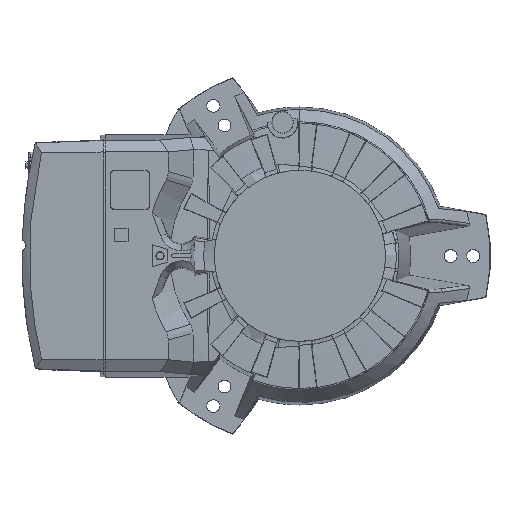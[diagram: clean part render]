
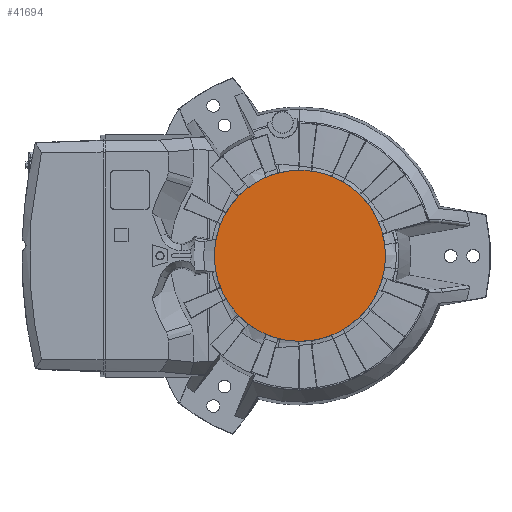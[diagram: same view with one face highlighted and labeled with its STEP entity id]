
A CAD part, top view. The second image highlights one B-rep face of the part: STEP entity #41694.
In plain terms, the highlighted planar face has unit normal (0, 0, 1).
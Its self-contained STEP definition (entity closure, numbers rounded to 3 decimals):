
#96 = CARTESIAN_POINT ( 'NONE',  ( 123.5, 0., 230. ) ) ;
#3240 = EDGE_CURVE ( 'NONE', #15499, #27252, #20673, .T. ) ;
#3378 = ORIENTED_EDGE ( 'NONE', *, *, #3240, .F. ) ;
#3547 = FACE_OUTER_BOUND ( 'NONE', #43938, .T. ) ;
#5740 = AXIS2_PLACEMENT_3D ( 'NONE', #10818, #35198, #14418 ) ;
#7304 = EDGE_CURVE ( 'NONE', #27252, #15499, #41166, .T. ) ;
#10818 = CARTESIAN_POINT ( 'NONE',  ( 0., 0., 230. ) ) ;
#14418 = DIRECTION ( 'NONE',  ( 0., 1., 0. ) ) ;
#15499 = VERTEX_POINT ( 'NONE', #96 ) ;
#20673 = B_SPLINE_CURVE_WITH_KNOTS ( 'NONE', 3,
 ( #43576, #42983, #43080, #43032, #42860, #42949, #42900, #42848, #42811, #42756, #42660, #42560, #42712, #42700, #42616, #42572, #42527, #42515, #42477, #42423, #42434, #42384, #42371, #42328, #42275, #42227, #42238, #42190, #42132, #42146, #42100, #42023, #42089, #42055 ),
 .UNSPECIFIED., .F., .F.,
 ( 4, 2, 2, 2, 2, 2, 2, 2, 2, 2, 2, 2, 2, 2, 2, 2, 4 ),
 ( 0., 0.063, 0.125, 0.187, 0.25, 0.312, 0.375, 0.438, 0.5, 0.562, 0.625, 0.687, 0.75, 0.813, 0.875, 0.938, 1. ),
 .UNSPECIFIED. ) ;
#27252 = VERTEX_POINT ( 'NONE', #44832 ) ;
#31807 = CARTESIAN_POINT ( 'NONE',  ( 123.5, 8.083, 230. ) ) ;
#31859 = CARTESIAN_POINT ( 'NONE',  ( 123.5, 0., 230. ) ) ;
#31995 = CARTESIAN_POINT ( 'NONE',  ( 119.55, 32.021, 230. ) ) ;
#32049 = CARTESIAN_POINT ( 'NONE',  ( 117.192, 39.794, 230. ) ) ;
#32101 = CARTESIAN_POINT ( 'NONE',  ( 98.196, 75.334, 230. ) ) ;
#32144 = CARTESIAN_POINT ( 'NONE',  ( 107.177, 61.892, 230. ) ) ;
#32155 = CARTESIAN_POINT ( 'NONE',  ( 122.704, 16.166, 230. ) ) ;
#32242 = CARTESIAN_POINT ( 'NONE',  ( 111.006, 54.729, 230. ) ) ;
#32287 = CARTESIAN_POINT ( 'NONE',  ( 81.612, 93.043, 230. ) ) ;
#32296 = CARTESIAN_POINT ( 'NONE',  ( 93.043, 81.612, 230. ) ) ;
#32335 = CARTESIAN_POINT ( 'NONE',  ( 54.729, 111.006, 230. ) ) ;
#32385 = CARTESIAN_POINT ( 'NONE',  ( 75.334, 98.196, 230. ) ) ;
#32480 = CARTESIAN_POINT ( 'NONE',  ( 16.166, 122.704, 230. ) ) ;
#32537 = CARTESIAN_POINT ( 'NONE',  ( 61.892, 107.177, 230. ) ) ;
#32578 = CARTESIAN_POINT ( 'NONE',  ( 39.794, 117.192, 230. ) ) ;
#32590 = CARTESIAN_POINT ( 'NONE',  ( 8.083, 123.5, 230. ) ) ;
#32627 = CARTESIAN_POINT ( 'NONE',  ( 32.021, 119.55, 230. ) ) ;
#32676 = CARTESIAN_POINT ( 'NONE',  ( -16.166, 122.704, 230. ) ) ;
#32720 = CARTESIAN_POINT ( 'NONE',  ( -8.083, 123.5, 230. ) ) ;
#32729 = CARTESIAN_POINT ( 'NONE',  ( -32.021, 119.55, 230. ) ) ;
#32762 = CARTESIAN_POINT ( 'NONE',  ( -39.794, 117.192, 230. ) ) ;
#32847 = CARTESIAN_POINT ( 'NONE',  ( -54.729, 111.006, 230. ) ) ;
#32931 = CARTESIAN_POINT ( 'NONE',  ( -61.892, 107.177, 230. ) ) ;
#32972 = CARTESIAN_POINT ( 'NONE',  ( -75.334, 98.196, 230. ) ) ;
#33016 = CARTESIAN_POINT ( 'NONE',  ( -81.612, 93.043, 230. ) ) ;
#33024 = CARTESIAN_POINT ( 'NONE',  ( -93.043, 81.612, 230. ) ) ;
#33116 = CARTESIAN_POINT ( 'NONE',  ( -98.196, 75.334, 230. ) ) ;
#33159 = CARTESIAN_POINT ( 'NONE',  ( -107.177, 61.892, 230. ) ) ;
#33167 = CARTESIAN_POINT ( 'NONE',  ( -111.006, 54.729, 230. ) ) ;
#33252 = CARTESIAN_POINT ( 'NONE',  ( -117.192, 39.794, 230. ) ) ;
#33296 = CARTESIAN_POINT ( 'NONE',  ( -119.55, 32.021, 230. ) ) ;
#33338 = CARTESIAN_POINT ( 'NONE',  ( -122.704, 16.166, 230. ) ) ;
#33393 = CARTESIAN_POINT ( 'NONE',  ( -123.5, 8.083, 230. ) ) ;
#34573 = CARTESIAN_POINT ( 'NONE',  ( -123.5, 0., 230. ) ) ;
#35198 = DIRECTION ( 'NONE',  ( 0., 0., -1. ) ) ;
#36364 = ORIENTED_EDGE ( 'NONE', *, *, #7304, .F. ) ;
#41166 = B_SPLINE_CURVE_WITH_KNOTS ( 'NONE', 3,
 ( #34573, #33393, #33338, #33296, #33252, #33167, #33159, #33116, #33024, #33016, #32972, #32931, #32847, #32762, #32729, #32676, #32720, #32590, #32480, #32627, #32578, #32335, #32537, #32385, #32287, #32296, #32101, #32144, #32242, #32049, #31995, #32155, #31807, #31859 ),
 .UNSPECIFIED., .F., .F.,
 ( 4, 2, 2, 2, 2, 2, 2, 2, 2, 2, 2, 2, 2, 2, 2, 2, 4 ),
 ( 0., 0.063, 0.125, 0.188, 0.25, 0.313, 0.375, 0.438, 0.5, 0.563, 0.625, 0.688, 0.75, 0.813, 0.875, 0.938, 1. ),
 .UNSPECIFIED. ) ;
#41694 = ADVANCED_FACE ( 'NONE', ( #3547 ), #44255, .F. ) ;
#42023 = CARTESIAN_POINT ( 'NONE',  ( -122.704, -16.166, 230. ) ) ;
#42055 = CARTESIAN_POINT ( 'NONE',  ( -123.5, 0., 230. ) ) ;
#42089 = CARTESIAN_POINT ( 'NONE',  ( -123.5, -8.083, 230. ) ) ;
#42100 = CARTESIAN_POINT ( 'NONE',  ( -119.55, -32.021, 230. ) ) ;
#42132 = CARTESIAN_POINT ( 'NONE',  ( -111.006, -54.729, 230. ) ) ;
#42146 = CARTESIAN_POINT ( 'NONE',  ( -117.192, -39.794, 230. ) ) ;
#42190 = CARTESIAN_POINT ( 'NONE',  ( -107.177, -61.892, 230. ) ) ;
#42227 = CARTESIAN_POINT ( 'NONE',  ( -93.043, -81.612, 230. ) ) ;
#42238 = CARTESIAN_POINT ( 'NONE',  ( -98.196, -75.334, 230. ) ) ;
#42275 = CARTESIAN_POINT ( 'NONE',  ( -81.612, -93.043, 230. ) ) ;
#42328 = CARTESIAN_POINT ( 'NONE',  ( -75.334, -98.196, 230. ) ) ;
#42371 = CARTESIAN_POINT ( 'NONE',  ( -61.892, -107.177, 230. ) ) ;
#42384 = CARTESIAN_POINT ( 'NONE',  ( -54.729, -111.006, 230. ) ) ;
#42423 = CARTESIAN_POINT ( 'NONE',  ( -32.021, -119.55, 230. ) ) ;
#42434 = CARTESIAN_POINT ( 'NONE',  ( -39.794, -117.192, 230. ) ) ;
#42477 = CARTESIAN_POINT ( 'NONE',  ( -16.166, -122.704, 230. ) ) ;
#42515 = CARTESIAN_POINT ( 'NONE',  ( -8.083, -123.5, 230. ) ) ;
#42527 = CARTESIAN_POINT ( 'NONE',  ( 8.083, -123.5, 230. ) ) ;
#42560 = CARTESIAN_POINT ( 'NONE',  ( 61.892, -107.177, 230. ) ) ;
#42572 = CARTESIAN_POINT ( 'NONE',  ( 16.166, -122.704, 230. ) ) ;
#42616 = CARTESIAN_POINT ( 'NONE',  ( 32.021, -119.55, 230. ) ) ;
#42660 = CARTESIAN_POINT ( 'NONE',  ( 75.334, -98.196, 230. ) ) ;
#42700 = CARTESIAN_POINT ( 'NONE',  ( 39.794, -117.192, 230. ) ) ;
#42712 = CARTESIAN_POINT ( 'NONE',  ( 54.729, -111.006, 230. ) ) ;
#42756 = CARTESIAN_POINT ( 'NONE',  ( 81.612, -93.043, 230. ) ) ;
#42811 = CARTESIAN_POINT ( 'NONE',  ( 93.043, -81.612, 230. ) ) ;
#42848 = CARTESIAN_POINT ( 'NONE',  ( 98.196, -75.334, 230. ) ) ;
#42860 = CARTESIAN_POINT ( 'NONE',  ( 117.192, -39.794, 230. ) ) ;
#42900 = CARTESIAN_POINT ( 'NONE',  ( 107.177, -61.892, 230. ) ) ;
#42949 = CARTESIAN_POINT ( 'NONE',  ( 111.006, -54.729, 230. ) ) ;
#42983 = CARTESIAN_POINT ( 'NONE',  ( 123.5, -8.083, 230. ) ) ;
#43032 = CARTESIAN_POINT ( 'NONE',  ( 119.55, -32.021, 230. ) ) ;
#43080 = CARTESIAN_POINT ( 'NONE',  ( 122.704, -16.166, 230. ) ) ;
#43576 = CARTESIAN_POINT ( 'NONE',  ( 123.5, 0., 230. ) ) ;
#43938 = EDGE_LOOP ( 'NONE', ( #3378, #36364 ) ) ;
#44255 = PLANE ( 'NONE',  #5740 ) ;
#44832 = CARTESIAN_POINT ( 'NONE',  ( -123.5, 0., 230. ) ) ;
